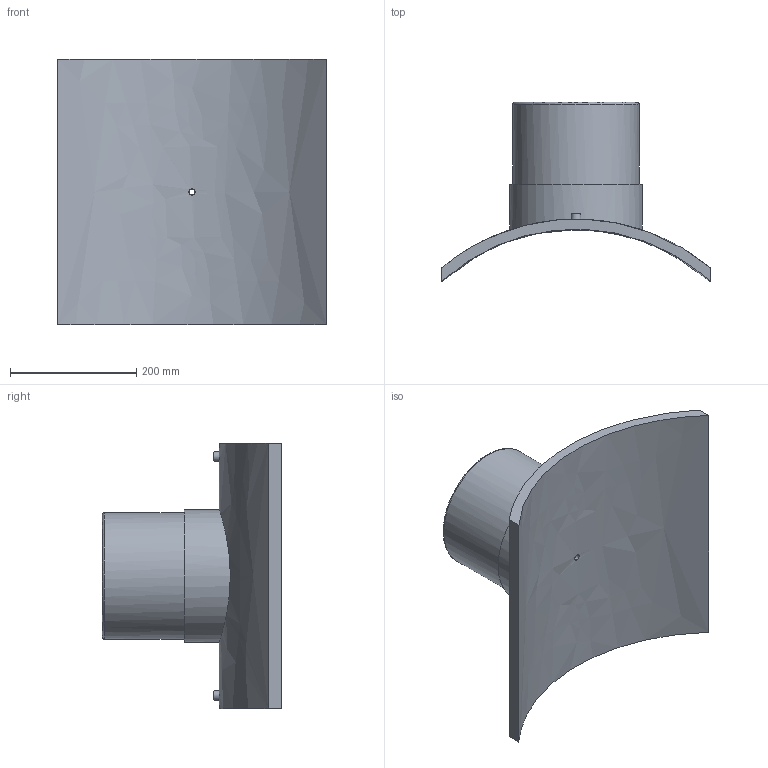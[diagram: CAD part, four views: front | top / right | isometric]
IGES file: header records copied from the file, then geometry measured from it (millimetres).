
Global section: file name: 495803630200TN; native system: Autodesk Inventor 2019; preprocessor: unknown; author: KIM; date: 20240404.115343; units: millimetre
Bounding box: 425 x 283.47 x 420 mm (x, y, z)
Volume: 5495171.5 mm3; surface area: 649374.1 mm2
Topology: 1 solids, 1 shells, 29 faces, 60 edges, 43 vertices
Faces by surface type: bspline 29
